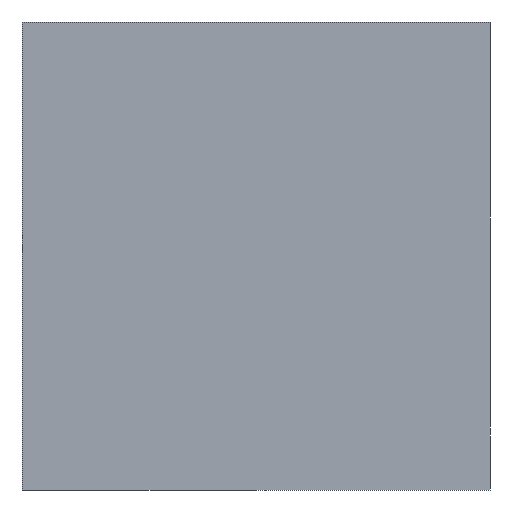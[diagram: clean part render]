
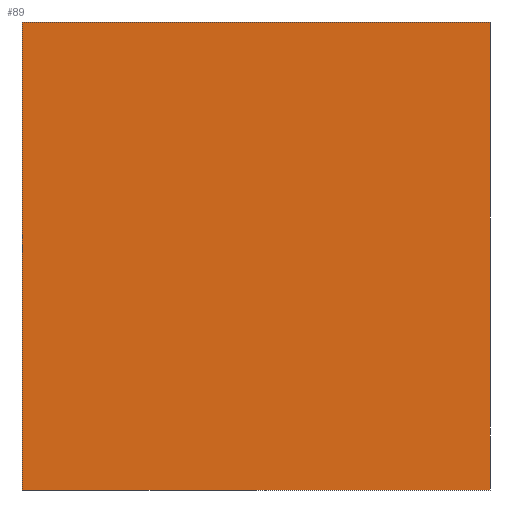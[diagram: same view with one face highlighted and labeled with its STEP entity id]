
A CAD part, left-side view. The second image highlights one B-rep face of the part: STEP entity #89.
In plain terms, the highlighted planar face has unit normal (-1, 0, 0).
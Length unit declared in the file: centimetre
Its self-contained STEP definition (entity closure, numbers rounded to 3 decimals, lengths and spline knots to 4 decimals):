
#12 = CARTESIAN_POINT ( 'NONE',  ( 0., 0., 1000. ) ) ;
#15 = EDGE_LOOP ( 'NONE', ( #139, #341, #788, #196 ) ) ;
#32 = VERTEX_POINT ( 'NONE', #238 ) ;
#57 = DIRECTION ( 'NONE',  ( 0., -1., 0. ) ) ;
#63 = CARTESIAN_POINT ( 'NONE',  ( 0., 1000., 0. ) ) ;
#68 = CARTESIAN_POINT ( 'NONE',  ( 0., 0., 0. ) ) ;
#79 = CARTESIAN_POINT ( 'NONE',  ( 0., 0., 1000. ) ) ;
#82 = FACE_OUTER_BOUND ( 'NONE', #15, .T. ) ;
#89 = ADVANCED_FACE ( 'NONE', ( #82 ), #163, .F. ) ;
#139 = ORIENTED_EDGE ( 'NONE', *, *, #652, .T. ) ;
#163 = PLANE ( 'NONE',  #234 ) ;
#196 = ORIENTED_EDGE ( 'NONE', *, *, #656, .T. ) ;
#228 = EDGE_CURVE ( 'NONE', #260, #636, #368, .T. ) ;
#234 = AXIS2_PLACEMENT_3D ( 'NONE', #694, #308, #564 ) ;
#238 = CARTESIAN_POINT ( 'NONE',  ( 0., 1000., 1000. ) ) ;
#258 = DIRECTION ( 'NONE',  ( 0., 0., -1. ) ) ;
#260 = VERTEX_POINT ( 'NONE', #12 ) ;
#276 = CARTESIAN_POINT ( 'NONE',  ( 0., 1000., 1000. ) ) ;
#302 = CARTESIAN_POINT ( 'NONE',  ( 0., 1000., 0. ) ) ;
#308 = DIRECTION ( 'NONE',  ( 1., 0., 0. ) ) ;
#341 = ORIENTED_EDGE ( 'NONE', *, *, #228, .F. ) ;
#368 = LINE ( 'NONE', #79, #761 ) ;
#393 = VECTOR ( 'NONE', #258, 100. ) ;
#401 = LINE ( 'NONE', #663, #393 ) ;
#534 = LINE ( 'NONE', #276, #737 ) ;
#564 = DIRECTION ( 'NONE',  ( 0., 0., -1. ) ) ;
#585 = DIRECTION ( 'NONE',  ( 0., -1., 0. ) ) ;
#624 = EDGE_CURVE ( 'NONE', #32, #260, #534, .T. ) ;
#636 = VERTEX_POINT ( 'NONE', #68 ) ;
#652 = EDGE_CURVE ( 'NONE', #730, #636, #789, .T. ) ;
#656 = EDGE_CURVE ( 'NONE', #32, #730, #401, .T. ) ;
#663 = CARTESIAN_POINT ( 'NONE',  ( 0., 1000., 1000. ) ) ;
#681 = DIRECTION ( 'NONE',  ( 0., 0., -1. ) ) ;
#694 = CARTESIAN_POINT ( 'NONE',  ( 0., 1000., 1000. ) ) ;
#730 = VERTEX_POINT ( 'NONE', #302 ) ;
#737 = VECTOR ( 'NONE', #585, 100. ) ;
#751 = VECTOR ( 'NONE', #57, 100. ) ;
#761 = VECTOR ( 'NONE', #681, 100. ) ;
#788 = ORIENTED_EDGE ( 'NONE', *, *, #624, .F. ) ;
#789 = LINE ( 'NONE', #63, #751 ) ;
